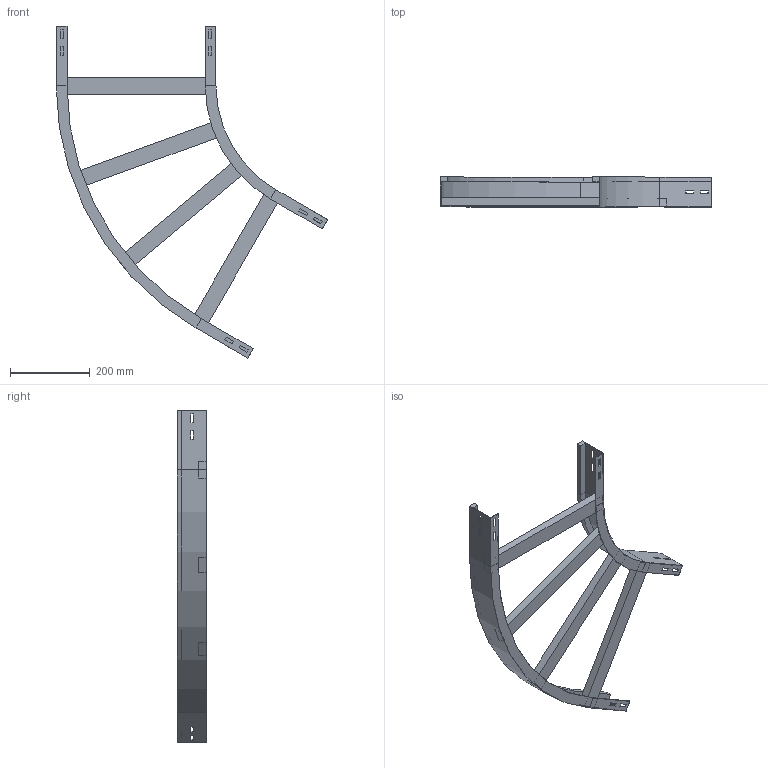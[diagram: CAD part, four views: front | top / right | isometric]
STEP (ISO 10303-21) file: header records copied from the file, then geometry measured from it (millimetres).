
FILE_DESCRIPTION (( 'STEP AP214' ), '1' );
FILE_NAME ('A2_13B3C400.step', '2025-02-21T15:21:12', ( '' ), ( '' ), 'SwSTEP 2.0', 'SolidWorks 2023', '' );
FILE_SCHEMA (( 'AUTOMOTIVE_DESIGN' ));
Length unit declared in the file: millimetre
Products named in the file (4): A2_13B3C400; A2_LONGH.ESTERNO 60°_H75_R300+400; A2_LONGH.INTERNO 60°_H75_R300; TRAVERSINO_400
Assembly tree (6 placements, depth 2):
  A2_13B3C400
    A2_LONGH.INTERNO 60°_H75_R300
    A2_LONGH.ESTERNO 60°_H75_R300+400
    TRAVERSINO_400  x4
Bounding box: 679.9 x 75 x 831.22 mm (x, y, z)
Volume: 1923813.4 mm3; surface area: 585378.6 mm2
Topology: 6 solids, 6 shells, 140 faces, 352 edges, 224 vertices
Faces by surface type: plane 132, cylinder 8
Entity records: 3829 total; most frequent: CARTESIAN_POINT 647, ORIENTED_EDGE 632, DIRECTION 594, EDGE_CURVE 316, LINE 300, VECTOR 300, VERTEX_POINT 200, EDGE_LOOP 154
